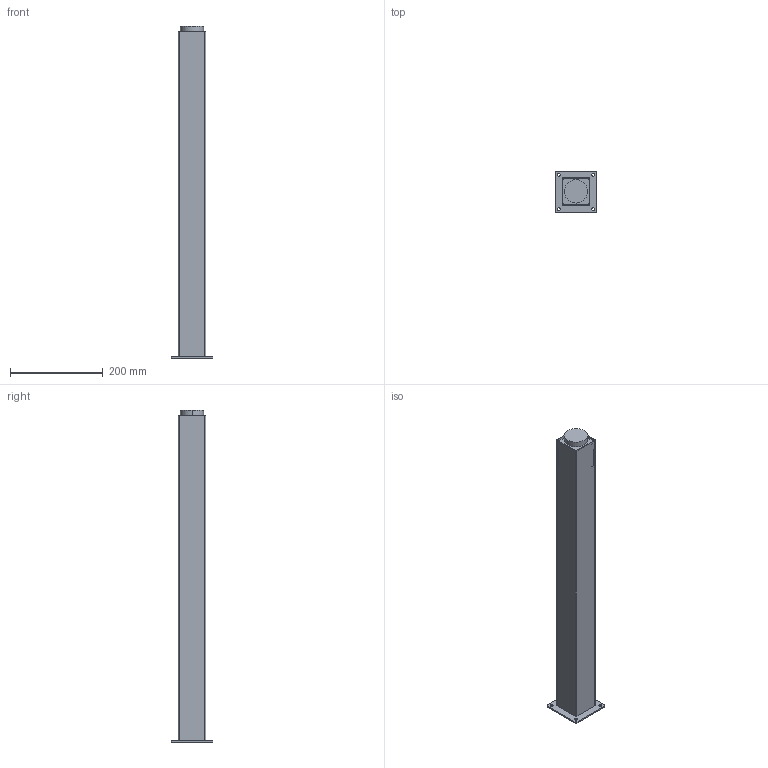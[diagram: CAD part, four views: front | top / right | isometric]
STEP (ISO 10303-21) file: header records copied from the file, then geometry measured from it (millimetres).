
FILE_DESCRIPTION (( 'STEP AP203' ), '1' );
FILE_NAME ('MILADESIGN stolová noha G5 ST602 _217709 a 218842 a 219334 a 219840_3D.STEP', '2021-12-09T11:40:40', ( '' ), ( '' ), 'SwSTEP 2.0', 'SolidWorks 2019', '' );
FILE_SCHEMA (( 'CONFIG_CONTROL_DESIGN' ));
Length unit declared in the file: millimetre
Products named in the file (1): MILADESIGN stolová noha G5 ST602 _217709 a 218842 a 219334 a 219840_3D
Bounding box: 90 x 90 x 715 mm (x, y, z)
Volume: 484853.4 mm3; surface area: 366136.1 mm2
Topology: 3 solids, 3 shells, 53 faces, 132 edges, 88 vertices
Faces by surface type: plane 29, cylinder 24
Entity records: 1683 total; most frequent: DIRECTION 288, CARTESIAN_POINT 274, ORIENTED_EDGE 264, EDGE_CURVE 132, AXIS2_PLACEMENT_3D 102, VERTEX_POINT 88, VECTOR 84, LINE 84
